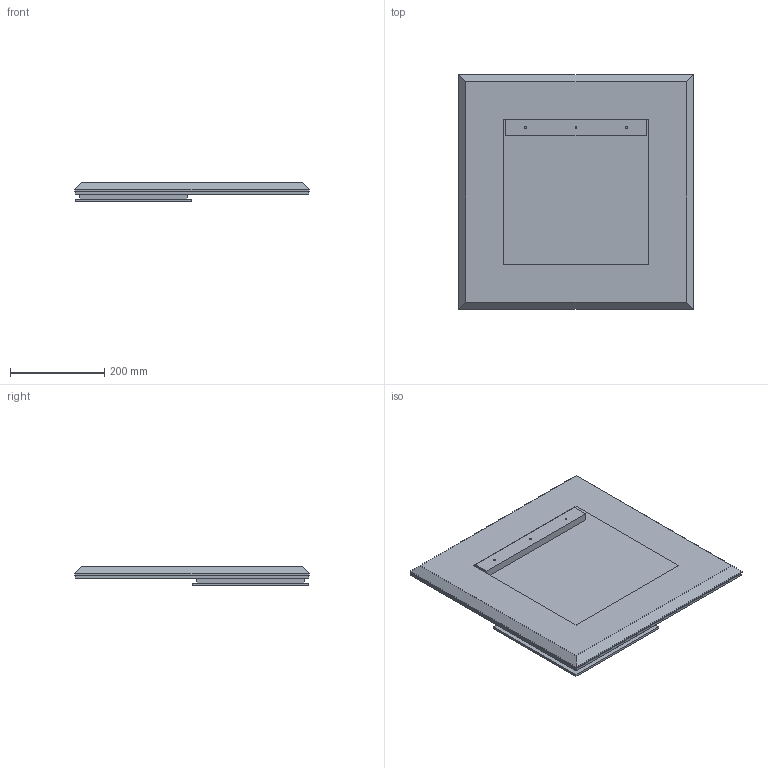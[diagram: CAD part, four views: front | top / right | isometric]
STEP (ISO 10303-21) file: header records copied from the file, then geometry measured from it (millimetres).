
FILE_DESCRIPTION (( 'STEP AP214' ), '1' );
FILE_NAME ('Dainelli_V3_Quadrante-Circolare.STEP', '2026-03-30T09:33:55', ( '' ), ( '' ), 'SwSTEP 2.0', 'SolidWorks 2025', '' );
FILE_SCHEMA (( 'AUTOMOTIVE_DESIGN' ));
Length unit declared in the file: millimetre
Products named in the file (7): Dainelli_QUADRANTE_CIRCOLARE_Dainelli_VETRO_QUADRANTE_CIRCOLARE; Dainelli_V3_Quadrante-Circolare; Dainelli_DISTANZIALE_50; Dainelli_Assieme_Pezzo_QUADRANTE_CIRCOLARE_50; Dainelli_CORNICE_50; Dainelli_QUADRANTE_CIRCOLARE_Dainelli_MDF_QUADRANTE_CIRCOLARE; Dainelli_CRISTALLO_50 (49.6)
Assembly tree (6 placements, depth 3):
  Dainelli_V3_Quadrante-Circolare
    Dainelli_CORNICE_50
    Dainelli_CRISTALLO_50 (49.6)
    Dainelli_DISTANZIALE_50
    Dainelli_Assieme_Pezzo_QUADRANTE_CIRCOLARE_50
      Dainelli_QUADRANTE_CIRCOLARE_Dainelli_MDF_QUADRANTE_CIRCOLARE
      Dainelli_QUADRANTE_CIRCOLARE_Dainelli_VETRO_QUADRANTE_CIRCOLARE
Bounding box: 498 x 498 x 40 mm (x, y, z)
Volume: 4784094.5 mm3; surface area: 1069732.4 mm2
Topology: 5 solids, 5 shells, 42 faces, 92 edges, 60 vertices
Faces by surface type: plane 34, cylinder 8
Entity records: 1369 total; most frequent: DIRECTION 212, CARTESIAN_POINT 204, ORIENTED_EDGE 184, EDGE_CURVE 92, VECTOR 76, LINE 76, AXIS2_PLACEMENT_3D 68, VERTEX_POINT 60
